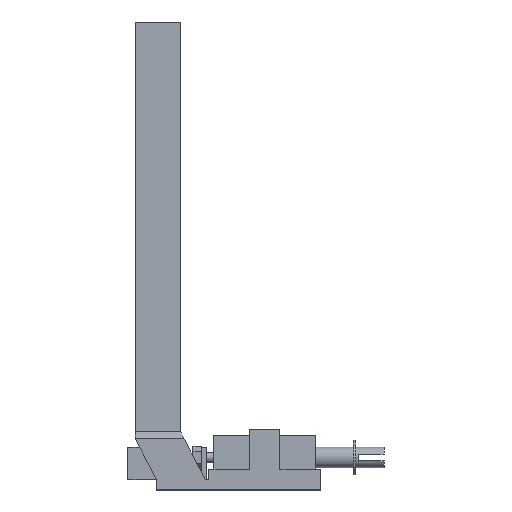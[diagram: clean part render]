
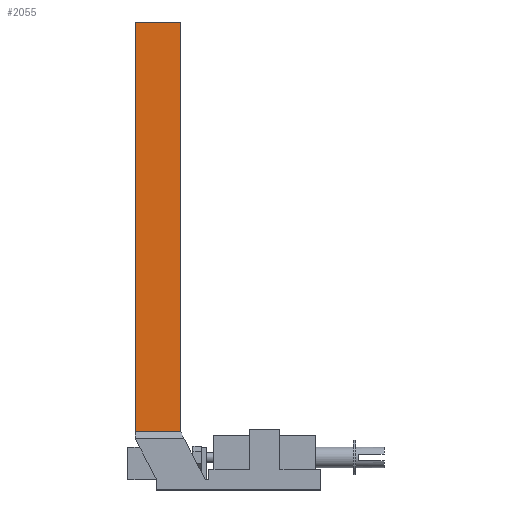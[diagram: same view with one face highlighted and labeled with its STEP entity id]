
A CAD part, top view. The second image highlights one B-rep face of the part: STEP entity #2055.
In plain terms, the highlighted planar face has unit normal (0, 0, 1).
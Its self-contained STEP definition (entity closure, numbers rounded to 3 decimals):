
#194=FACE_OUTER_BOUND('',#317,.T.);
#317=EDGE_LOOP('',(#1753,#1754,#1755,#1756));
#533=LINE('',#3273,#789);
#570=LINE('',#3341,#826);
#571=LINE('',#3344,#827);
#572=LINE('',#3345,#828);
#789=VECTOR('',#2681,10.);
#826=VECTOR('',#2746,10.);
#827=VECTOR('',#2749,10.);
#828=VECTOR('',#2750,10.);
#1000=VERTEX_POINT('',#3265);
#1002=VERTEX_POINT('',#3272);
#1019=VERTEX_POINT('',#3339);
#1020=VERTEX_POINT('',#3343);
#1245=EDGE_CURVE('',#1000,#1002,#533,.T.);
#1282=EDGE_CURVE('',#1002,#1019,#570,.T.);
#1283=EDGE_CURVE('',#1020,#1019,#571,.T.);
#1284=EDGE_CURVE('',#1000,#1020,#572,.T.);
#1753=ORIENTED_EDGE('',*,*,#1245,.T.);
#1754=ORIENTED_EDGE('',*,*,#1282,.T.);
#1755=ORIENTED_EDGE('',*,*,#1283,.F.);
#1756=ORIENTED_EDGE('',*,*,#1284,.F.);
#1944=PLANE('',#2237);
#2055=ADVANCED_FACE('',(#194),#1944,.T.);
#2237=AXIS2_PLACEMENT_3D('',#3342,#2747,#2748);
#2681=DIRECTION('',(1.,0.,0.));
#2746=DIRECTION('',(0.,1.,0.));
#2747=DIRECTION('center_axis',(0.,0.,1.));
#2748=DIRECTION('ref_axis',(1.,0.,0.));
#2749=DIRECTION('',(1.,0.,0.));
#2750=DIRECTION('',(0.,1.,0.));
#3265=CARTESIAN_POINT('',(-22.8,7.5,6.6));
#3272=CARTESIAN_POINT('',(-9.6,7.5,6.6));
#3273=CARTESIAN_POINT('',(-22.8,7.5,6.6));
#3339=CARTESIAN_POINT('',(-9.6,127.5,6.6));
#3341=CARTESIAN_POINT('',(-9.6,7.5,6.6));
#3342=CARTESIAN_POINT('Origin',(-22.8,7.5,6.6));
#3343=CARTESIAN_POINT('',(-22.8,127.5,6.6));
#3344=CARTESIAN_POINT('',(-22.8,127.5,6.6));
#3345=CARTESIAN_POINT('',(-22.8,7.5,6.6));
